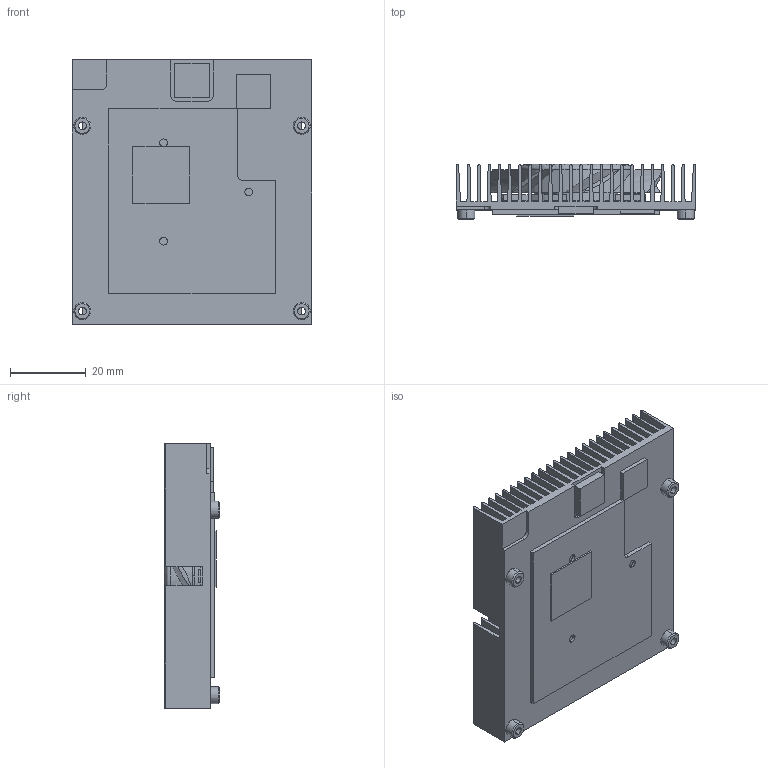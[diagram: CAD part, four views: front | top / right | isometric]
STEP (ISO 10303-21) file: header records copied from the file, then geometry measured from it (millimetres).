
FILE_DESCRIPTION (( 'STEP AP203' ), '1' );
FILE_NAME ('GP UP-003.STEP', '2019-04-02T02:51:18', ( 'Windows' ), ( 'Microsoft' ), 'SwSTEP 2.0', 'SolidWorks 2016', '' );
FILE_SCHEMA (( 'CONFIG_CONTROL_DESIGN' ));
Length unit declared in the file: millimetre
Products named in the file (10): 50109圮珔; 50109; 錨璃2; GP UP-003; 4510盓殤瑞圮; 导热贴1; 錨璃57; 导热贴3; 錨璃1; 导热贴2
Assembly tree (14 placements, depth 3):
  GP UP-003
    錨璃2  x4
    4510盓殤瑞圮
    导热贴1
    錨璃57  x3
    导热贴3
    錨璃1
    导热贴2
    50109
      50109圮珔
Bounding box: 63.3 x 14.6 x 70 mm (x, y, z)
Volume: 24805 mm3; surface area: 36835.8 mm2
Topology: 12 solids, 20 shells, 698 faces, 1916 edges, 1258 vertices
Faces by surface type: plane 379, cylinder 248, bspline 41, cone 28, torus 2
Entity records: 19146 total; most frequent: CARTESIAN_POINT 6434, ORIENTED_EDGE 2538, DIRECTION 2259, EDGE_CURVE 1286, VERTEX_POINT 848, VECTOR 769, LINE 769, AXIS2_PLACEMENT_3D 745
